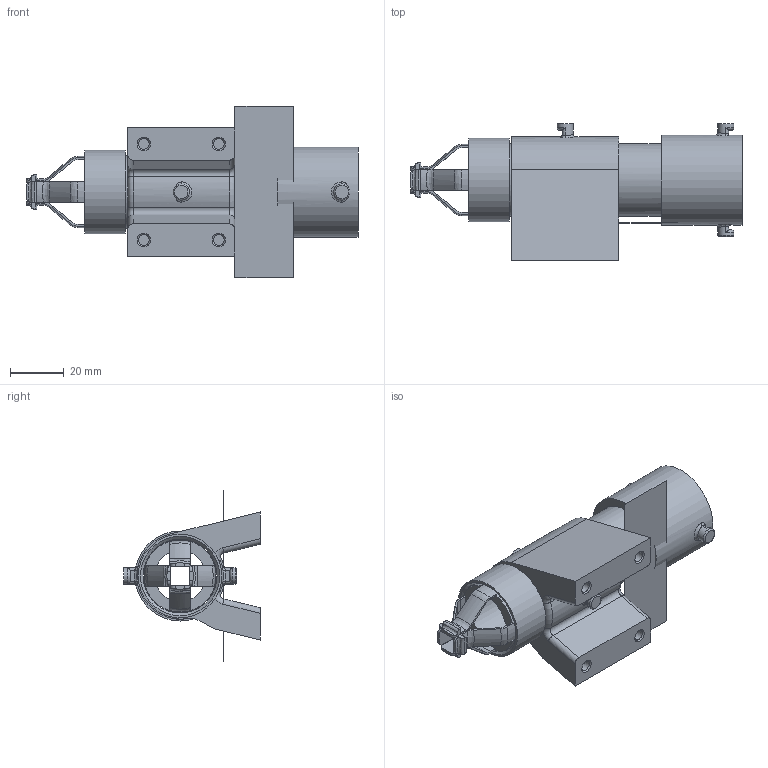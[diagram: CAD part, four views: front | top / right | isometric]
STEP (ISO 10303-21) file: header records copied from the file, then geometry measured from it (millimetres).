
FILE_DESCRIPTION(/* description */ (''),/* implementation_level */ '2;1');
FILE_NAME(/* name */ '',/* time_stamp */ '2026-01-09T13:59:59+03:00',/* author */ ('user'),/* organization */ (''),/* preprocessor_version */ 'ST-DEVELOPER v20.1',/* originating_system */ 'Autodesk Inventor 2026',/* authorisation */ '');
FILE_SCHEMA (('AUTOMOTIVE_DESIGN { 1 0 10303 214 3 1 1 }'));
Length unit declared in the file: millimetre
Products named in the file (1): МАРКЕР
Bounding box: 123.97 x 51.1 x 64.19 mm (x, y, z)
Volume: 56540.9 mm3; surface area: 39960.2 mm2
Topology: 5 solids, 6 shells, 264 faces, 693 edges, 440 vertices
Faces by surface type: plane 94, cylinder 80, bspline 40, torus 23, cone 19, sphere 8
Full cylindrical faces by diameter (mm): 1.5 x3, 4 x4, 6 x4, 19 x1, 23 x1, 27 x1, 27.6 x2, 28.2 x1, 31.2 x1, 33.6 x1
Entity records: 10589 total; most frequent: CARTESIAN_POINT 4318, ORIENTED_EDGE 1374, DIRECTION 1198, EDGE_CURVE 689, AXIS2_PLACEMENT_3D 468, VERTEX_POINT 440, EDGE_LOOP 284, FACE_OUTER_BOUND 264
